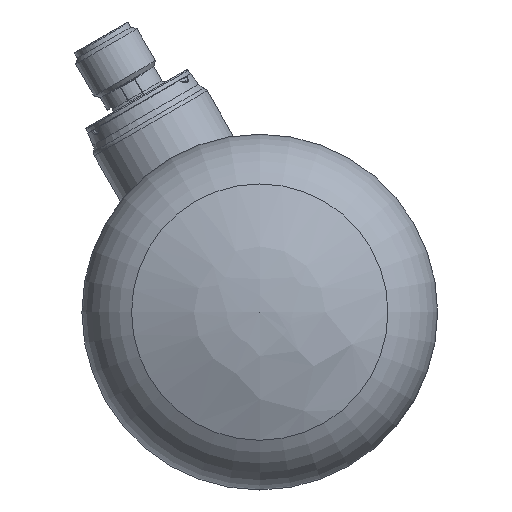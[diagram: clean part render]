
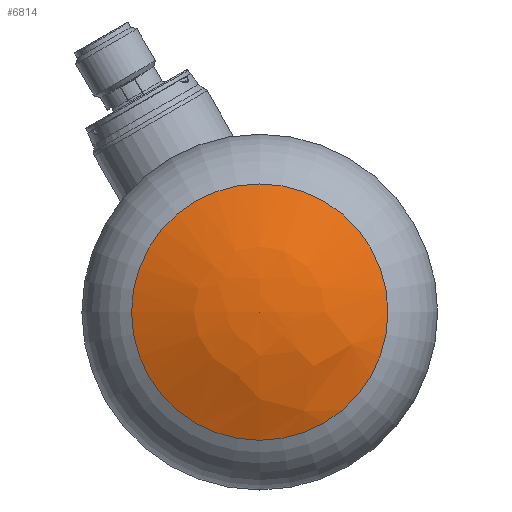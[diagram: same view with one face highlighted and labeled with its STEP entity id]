
A CAD part, front view. The second image highlights one B-rep face of the part: STEP entity #6814.
In plain terms, the highlighted free-form (B-spline) face has degree [2, 2] with [3, 9] control points.
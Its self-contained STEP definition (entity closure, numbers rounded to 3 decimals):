
#197=(
BOUNDED_SURFACE()
B_SPLINE_SURFACE(2,2,((#19516,#19517,#19518,#19519,#19520,#19521,#19522,
#19523,#19524),(#19525,#19526,#19527,#19528,#19529,#19530,#19531,#19532,
#19533),(#19534,#19535,#19536,#19537,#19538,#19539,#19540,#19541,#19542)),
 .UNSPECIFIED.,.F.,.T.,.F.)
B_SPLINE_SURFACE_WITH_KNOTS((3,3),(3,2,2,2,3),(-1.577,-1.124),
(-3.142,-1.571,0.,1.571,3.142),
 .UNSPECIFIED.)
GEOMETRIC_REPRESENTATION_ITEM()
RATIONAL_B_SPLINE_SURFACE(((1.,0.707,1.,0.707,1.,
0.707,1.,0.707,1.),(0.974,0.689,
0.974,0.689,0.974,0.689,0.974,
0.689,0.974),(1.,0.707,1.,0.707,
1.,0.707,1.,0.707,1.)))
REPRESENTATION_ITEM('')
SURFACE()
);
#840=CIRCLE('',#7322,21.728);
#841=CIRCLE('',#7323,49.569);
#1207=FACE_OUTER_BOUND('',#1609,.T.);
#1609=EDGE_LOOP('',(#5819,#5820,#5821));
#2995=VERTEX_POINT('',#19543);
#2996=VERTEX_POINT('',#19545);
#3947=EDGE_CURVE('',#2995,#2995,#840,.T.);
#3948=EDGE_CURVE('',#2995,#2996,#841,.T.);
#5819=ORIENTED_EDGE('',*,*,#3947,.F.);
#5820=ORIENTED_EDGE('',*,*,#3948,.T.);
#5821=ORIENTED_EDGE('',*,*,#3948,.F.);
#6814=ADVANCED_FACE('',(#1207),#197,.F.);
#7322=AXIS2_PLACEMENT_3D('',#19544,#8666,#8667);
#7323=AXIS2_PLACEMENT_3D('',#19546,#8668,#8669);
#8666=DIRECTION('center_axis',(0.,1.,0.));
#8667=DIRECTION('ref_axis',(1.,0.,0.));
#8668=DIRECTION('center_axis',(-1.,0.,0.));
#8669=DIRECTION('ref_axis',(0.,0.,-1.));
#19516=CARTESIAN_POINT('Ctrl Pts',(0.,0.001,0.));
#19517=CARTESIAN_POINT('Ctrl Pts',(0.,0.001,
0.));
#19518=CARTESIAN_POINT('Ctrl Pts',(0.,0.001,
0.));
#19519=CARTESIAN_POINT('Ctrl Pts',(0.,0.001,
0.));
#19520=CARTESIAN_POINT('Ctrl Pts',(0.,0.001,0.));
#19521=CARTESIAN_POINT('Ctrl Pts',(0.,0.001,
0.));
#19522=CARTESIAN_POINT('Ctrl Pts',(0.,0.001,
0.));
#19523=CARTESIAN_POINT('Ctrl Pts',(0.,0.001,
0.));
#19524=CARTESIAN_POINT('Ctrl Pts',(0.,0.001,0.));
#19525=CARTESIAN_POINT('Ctrl Pts',(0.,-0.074,-11.424));
#19526=CARTESIAN_POINT('Ctrl Pts',(-11.424,-0.074,
-11.424));
#19527=CARTESIAN_POINT('Ctrl Pts',(-11.424,-0.074,
0.));
#19528=CARTESIAN_POINT('Ctrl Pts',(-11.424,-0.074,
11.424));
#19529=CARTESIAN_POINT('Ctrl Pts',(0.,-0.074,11.424));
#19530=CARTESIAN_POINT('Ctrl Pts',(11.424,-0.074,
11.424));
#19531=CARTESIAN_POINT('Ctrl Pts',(11.424,-0.074,
0.));
#19532=CARTESIAN_POINT('Ctrl Pts',(11.424,-0.074,
-11.424));
#19533=CARTESIAN_POINT('Ctrl Pts',(0.,-0.074,-11.424));
#19534=CARTESIAN_POINT('Ctrl Pts',(0.,4.859,-21.728));
#19535=CARTESIAN_POINT('Ctrl Pts',(-21.728,4.859,-21.728));
#19536=CARTESIAN_POINT('Ctrl Pts',(-21.728,4.859,0.));
#19537=CARTESIAN_POINT('Ctrl Pts',(-21.728,4.859,21.728));
#19538=CARTESIAN_POINT('Ctrl Pts',(0.,4.859,21.728));
#19539=CARTESIAN_POINT('Ctrl Pts',(21.728,4.859,21.728));
#19540=CARTESIAN_POINT('Ctrl Pts',(21.728,4.859,0.));
#19541=CARTESIAN_POINT('Ctrl Pts',(21.728,4.859,-21.728));
#19542=CARTESIAN_POINT('Ctrl Pts',(0.,4.859,-21.728));
#19543=CARTESIAN_POINT('',(0.,4.859,-21.728));
#19544=CARTESIAN_POINT('Origin',(0.,4.859,0.));
#19545=CARTESIAN_POINT('',(0.,0.001,0.));
#19546=CARTESIAN_POINT('Origin',(0.,49.568,
-0.325));
